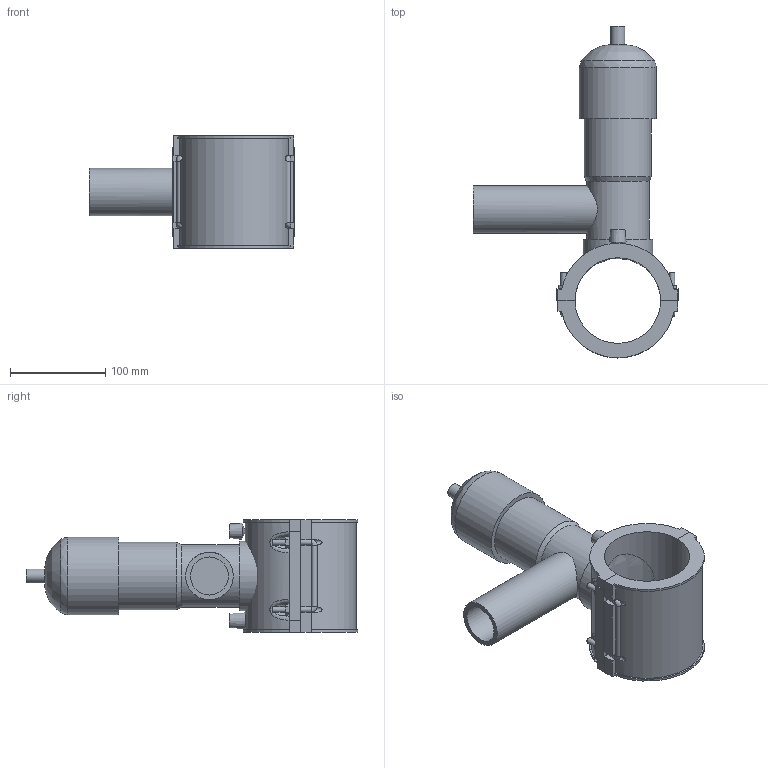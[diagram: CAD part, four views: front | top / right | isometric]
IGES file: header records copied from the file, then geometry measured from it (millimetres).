
Global section: file name: 495404090050.ipt; native system: Autodesk Inventor 2015; preprocessor: unknown; author: KIM; date: 20171106.094244; units: millimetre
Bounding box: 216 x 349.25 x 118 mm (x, y, z)
Volume: 1535137.6 mm3; surface area: 207481.6 mm2
Topology: 3 solids, 3 shells, 157 faces, 390 edges, 254 vertices
Faces by surface type: plane 99, cylinder 27, revolution 20, cone 7, bspline 4
Full cylindrical faces by diameter (mm): 4 x2, 6 x8, 14.64 x1, 50 x1, 65.88 x1, 70.76 x1, 73.2 x1, 81.333 x1
